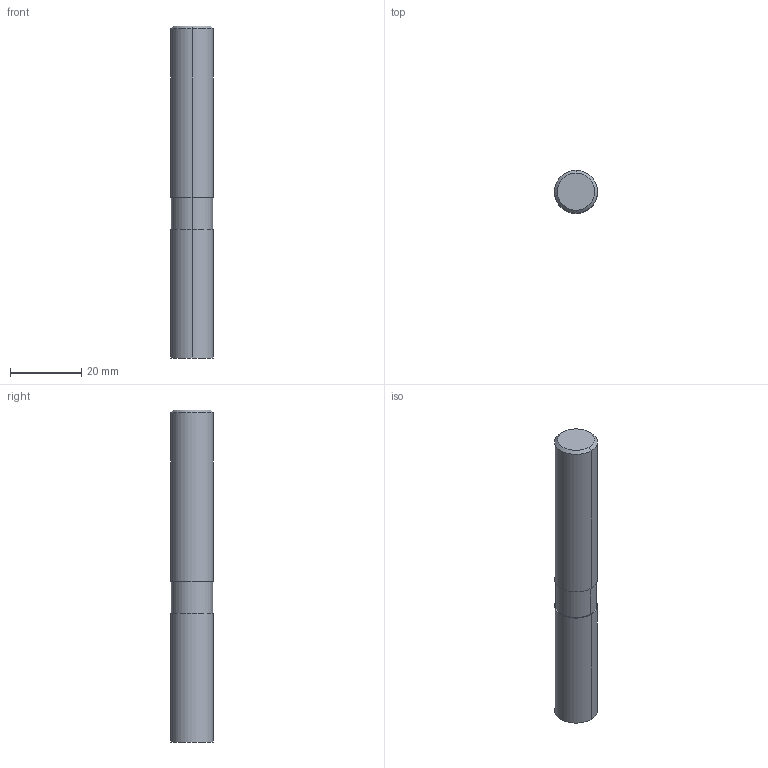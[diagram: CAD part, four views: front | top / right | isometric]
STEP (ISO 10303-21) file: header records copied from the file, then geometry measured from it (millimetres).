
FILE_DESCRIPTION((''),'2;1');
FILE_NAME('DIN4003_82_HEURO','2016-04-11T',('automc'),(''),'PRO/ENGINEER BY PARAMETRIC TECHNOLOGY CORPORATION, 2015280','PRO/ENGINEER BY PARAMETRIC TECHNOLOGY CORPORATION, 2015280','');
FILE_SCHEMA(('AUTOMOTIVE_DESIGN { 1 0 10303 214 1 1 1 1 }'));
Length unit declared in the file: millimetre
Products named in the file (1): DIN4003_82_HEURO
Bounding box: 12 x 12 x 93 mm (x, y, z)
Volume: 10423.5 mm3; surface area: 3718 mm2
Topology: 1 solids, 1 shells, 12 faces, 24 edges, 17 vertices
Faces by surface type: bspline 12
Entity records: 704 total; most frequent: CARTESIAN_POINT 219, DIRECTION 68, ORIENTED_EDGE 44, AXIS2_PLACEMENT_3D 26, PRESENTATION_STYLE_ASSIGNMENT 23, STYLED_ITEM 23, EDGE_CURVE 22, VECTOR 16
